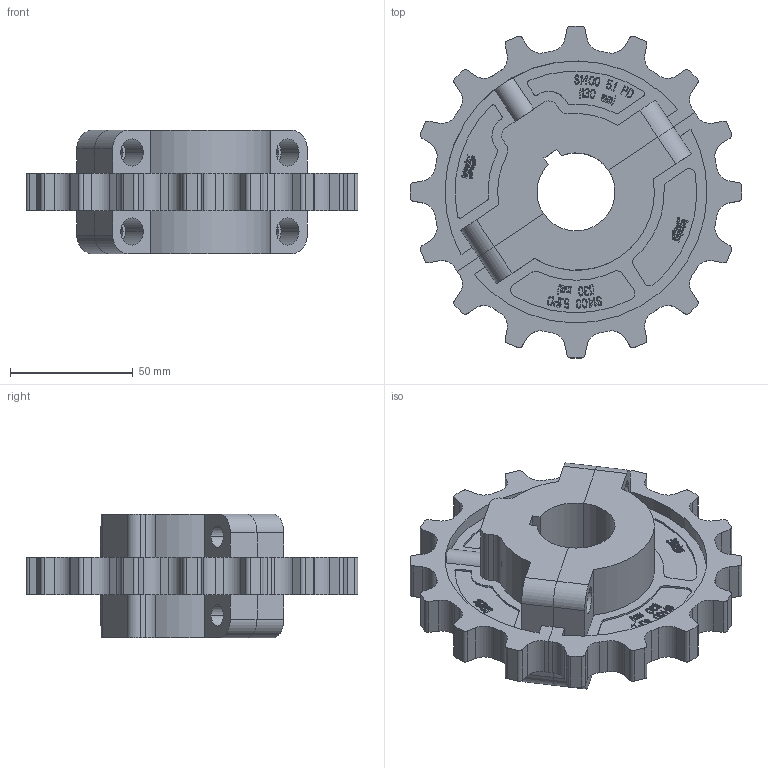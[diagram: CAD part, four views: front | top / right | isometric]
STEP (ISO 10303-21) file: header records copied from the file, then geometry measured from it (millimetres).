
FILE_DESCRIPTION((''),'2;1');
FILE_NAME('S1400_SPLIT_51_PILOT_ASM','2008-12-12T',('jmumphre'),(''),'PRO/ENGINEER BY PARAMETRIC TECHNOLOGY CORPORATION, 2008150','PRO/ENGINEER BY PARAMETRIC TECHNOLOGY CORPORATION, 2008150','');
FILE_SCHEMA(('CONFIG_CONTROL_DESIGN'));
Length unit declared in the file: inch
Products named in the file (3): S1400_SPLIT_51_PILOT_BOLT_AF0; S1400_SPLIT_51_PILOT_NUT_AF0; S1400_SPLIT_51_PILOT_ASM
Assembly tree (2 placements, depth 2):
  S1400_SPLIT_51_PILOT_ASM
    S1400_SPLIT_51_PILOT_BOLT_AF0
    S1400_SPLIT_51_PILOT_NUT_AF0
Bounding box: 135.05 x 135.05 x 50.29 mm (x, y, z)
Volume: 230580.7 mm3; surface area: 62871.1 mm2
Topology: 2 solids, 2 shells, 1785 faces, 5088 edges, 3392 vertices
Faces by surface type: plane 1389, cylinder 392, extrusion 4
Entity records: 58086 total; most frequent: CARTESIAN_POINT 10616, ORIENTED_EDGE 10176, DIRECTION 9428, EDGE_CURVE 5088, VECTOR 4296, LINE 4292, VERTEX_POINT 3392, AXIS2_PLACEMENT_3D 2566
